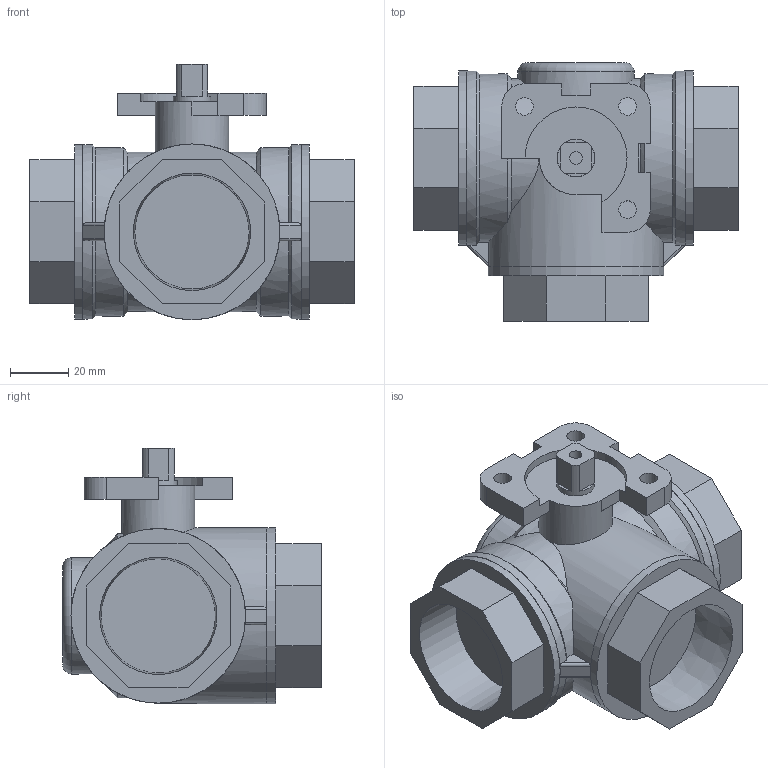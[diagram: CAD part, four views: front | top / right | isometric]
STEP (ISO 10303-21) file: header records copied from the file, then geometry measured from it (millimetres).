
FILE_DESCRIPTION((' '),'2;1');
FILE_NAME('N:\Technical Support\Private\Jomar Valve CAD\Actuation\A751T.L\A751TL-114FusionCopy.stp.step','2017-05-26T11:53:04',(' '),(' '),' ','ACIS',' ');
FILE_SCHEMA(('CONFIG_CONTROL_DESIGN'));
Length unit declared in the file: inch
Products named in the file (6): N:\Technical Support\Private\Jomar Valve CAD\Actuation\A751T.L\A751TL-114FusionCopy.stp.step; Body1; Body2; Body3; Body4; Body5
Assembly tree (5 placements, depth 2):
  N:\Technical Support\Private\Jomar Valve CAD\Actuation\A751T.L\A751TL-114FusionCopy.stp.step
    Body1
    Body2
    Body3
    Body4
    Body5
Bounding box: 111.12 x 88.65 x 87.5 mm (x, y, z)
Volume: 310291.2 mm3; surface area: 62346.9 mm2
Topology: 5 solids, 5 shells, 127 faces, 317 edges, 208 vertices
Faces by surface type: plane 67, bspline 27, cylinder 26, cone 6, torus 1
Full cylindrical faces by diameter (mm): 4.318 x1, 6 x3, 12.929 x1, 25.146 x1, 26.543 x1, 39.878 x1, 59.817 x1, 60.198 x2
Entity records: 4769 total; most frequent: CARTESIAN_POINT 1083, ORIENTED_EDGE 592, DIRECTION 561, EDGE_CURVE 296, VERTEX_POINT 203, AXIS2_PLACEMENT_3D 193, VECTOR 175, LINE 175
